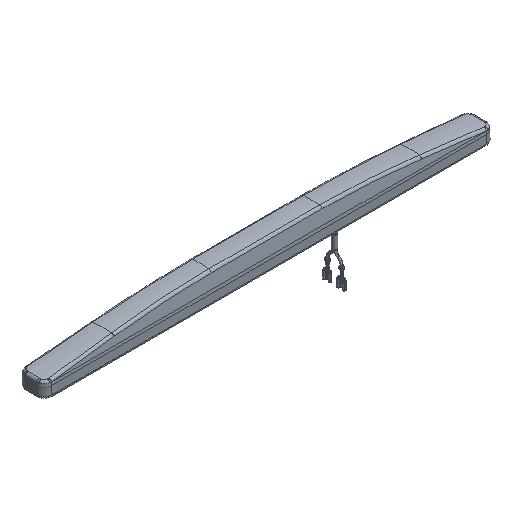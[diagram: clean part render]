
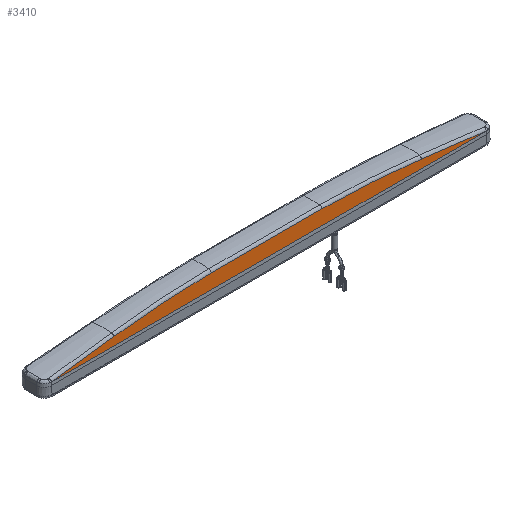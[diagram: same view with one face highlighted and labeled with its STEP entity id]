
A CAD part, isometric view. The second image highlights one B-rep face of the part: STEP entity #3410.
In plain terms, the highlighted planar face has unit normal (0, -0.985, 0.174).
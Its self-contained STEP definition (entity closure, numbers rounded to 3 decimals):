
#3390=AXIS2_PLACEMENT_3D('Plane Axis2P3D',#3387,#3388,#3389) ;
#208=CARTESIAN_POINT('Vertex',(-152.371,-11.516,1.938)) ;
#212=CARTESIAN_POINT('Control Point',(-54.833,-10.539,7.483)) ;
#213=CARTESIAN_POINT('Control Point',(-74.382,-10.562,7.35)) ;
#214=CARTESIAN_POINT('Control Point',(-93.927,-10.671,6.729)) ;
#215=CARTESIAN_POINT('Control Point',(-113.451,-10.867,5.62)) ;
#216=CARTESIAN_POINT('Control Point',(-132.939,-11.149,4.023)) ;
#217=CARTESIAN_POINT('Control Point',(-152.371,-11.516,1.938)) ;
#218=CARTESIAN_POINT('Vertex',(-54.833,-10.539,7.483)) ;
#379=CARTESIAN_POINT('Control Point',(54.833,-10.539,7.483)) ;
#380=CARTESIAN_POINT('Control Point',(32.9,-10.512,7.632)) ;
#381=CARTESIAN_POINT('Control Point',(10.967,-10.499,7.707)) ;
#382=CARTESIAN_POINT('Control Point',(-10.967,-10.499,7.707)) ;
#383=CARTESIAN_POINT('Control Point',(-32.9,-10.512,7.632)) ;
#384=CARTESIAN_POINT('Control Point',(-54.833,-10.539,7.483)) ;
#385=CARTESIAN_POINT('Vertex',(54.833,-10.539,7.483)) ;
#595=CARTESIAN_POINT('Control Point',(152.371,-11.516,1.938)) ;
#596=CARTESIAN_POINT('Control Point',(138.595,-11.256,3.417)) ;
#597=CARTESIAN_POINT('Control Point',(124.792,-11.038,4.649)) ;
#598=CARTESIAN_POINT('Control Point',(110.967,-10.864,5.637)) ;
#599=CARTESIAN_POINT('Control Point',(91.444,-10.679,6.684)) ;
#600=CARTESIAN_POINT('Control Point',(71.903,-10.581,7.243)) ;
#601=CARTESIAN_POINT('Control Point',(66.214,-10.559,7.364)) ;
#602=CARTESIAN_POINT('Control Point',(60.523,-10.545,7.444)) ;
#603=CARTESIAN_POINT('Control Point',(54.833,-10.539,7.483)) ;
#604=CARTESIAN_POINT('Vertex',(152.371,-11.516,1.938)) ;
#1415=CARTESIAN_POINT('Vertex',(-215.5,-12.73,-4.943)) ;
#1608=CARTESIAN_POINT('Vertex',(215.5,-12.73,-4.943)) ;
#1611=CARTESIAN_POINT('Line Origine',(0.,-12.73,-4.943)) ;
#1640=CARTESIAN_POINT('Line Origine',(-215.5,-11.071,4.462)) ;
#1644=CARTESIAN_POINT('Vertex',(-215.5,-12.712,-4.845)) ;
#1807=CARTESIAN_POINT('Line Origine',(215.5,-11.071,4.462)) ;
#1811=CARTESIAN_POINT('Vertex',(215.5,-12.712,-4.845)) ;
#3321=CARTESIAN_POINT('Control Point',(215.5,-12.712,-4.845)) ;
#3322=CARTESIAN_POINT('Control Point',(202.874,-12.473,-3.486)) ;
#3323=CARTESIAN_POINT('Control Point',(190.249,-12.233,-2.129)) ;
#3324=CARTESIAN_POINT('Control Point',(177.623,-11.994,-0.772)) ;
#3325=CARTESIAN_POINT('Control Point',(164.997,-11.755,0.584)) ;
#3326=CARTESIAN_POINT('Control Point',(152.371,-11.516,1.938)) ;
#3387=CARTESIAN_POINT('Axis2P3D Location',(215.5,-12.972,-6.32)) ;
#3393=CARTESIAN_POINT('Control Point',(-152.371,-11.516,1.938)) ;
#3394=CARTESIAN_POINT('Control Point',(-164.997,-11.755,0.584)) ;
#3395=CARTESIAN_POINT('Control Point',(-177.623,-11.994,-0.772)) ;
#3396=CARTESIAN_POINT('Control Point',(-190.249,-12.233,-2.129)) ;
#3397=CARTESIAN_POINT('Control Point',(-202.874,-12.473,-3.486)) ;
#3398=CARTESIAN_POINT('Control Point',(-215.5,-12.712,-4.845)) ;
#1612=DIRECTION('Vector Direction',(-1.,0.,0.)) ;
#1641=DIRECTION('Vector Direction',(0.,-0.174,-0.985)) ;
#1808=DIRECTION('Vector Direction',(0.,-0.174,-0.985)) ;
#3388=DIRECTION('Axis2P3D Direction',(0.,-0.985,0.174)) ;
#3389=DIRECTION('Axis2P3D XDirection',(0.,0.174,0.985)) ;
#1613=VECTOR('Line Direction',#1612,1.) ;
#1642=VECTOR('Line Direction',#1641,1.) ;
#1809=VECTOR('Line Direction',#1808,1.) ;
#3401=ORIENTED_EDGE('',*,*,#3327,.F.) ;
#3402=ORIENTED_EDGE('',*,*,#606,.F.) ;
#3403=ORIENTED_EDGE('',*,*,#387,.F.) ;
#3404=ORIENTED_EDGE('',*,*,#220,.F.) ;
#3405=ORIENTED_EDGE('',*,*,#3399,.F.) ;
#3406=ORIENTED_EDGE('',*,*,#1646,.F.) ;
#3407=ORIENTED_EDGE('',*,*,#1615,.F.) ;
#3408=ORIENTED_EDGE('',*,*,#1813,.T.) ;
#3410=ADVANCED_FACE('Body.47',(#3409),#3391,.T.) ;
#211=B_SPLINE_CURVE_WITH_KNOTS('',5,(#212,#213,#214,#215,#216,#217),.UNSPECIFIED.,.F.,.U.,(6,6),(245.077,378.084),.UNSPECIFIED.) ;
#378=B_SPLINE_CURVE_WITH_KNOTS('',5,(#379,#380,#381,#382,#383,#384),.UNSPECIFIED.,.F.,.U.,(6,6),(347.595,501.964),.UNSPECIFIED.) ;
#594=B_SPLINE_CURVE_WITH_KNOTS('',5,(#595,#596,#597,#598,#599,#600,#601,#602,#603),.UNSPECIFIED.,.F.,.U.,(6,3,6),(93.958,188.248,226.965),.UNSPECIFIED.) ;
#3320=B_SPLINE_CURVE_WITH_KNOTS('',5,(#3321,#3322,#3323,#3324,#3325,#3326),.UNSPECIFIED.,.F.,.U.,(6,6),(39.865,129.673),.UNSPECIFIED.) ;
#3392=B_SPLINE_CURVE_WITH_KNOTS('',5,(#3393,#3394,#3395,#3396,#3397,#3398),.UNSPECIFIED.,.F.,.U.,(6,6),(141.293,231.101),.UNSPECIFIED.) ;
#220=EDGE_CURVE('',#209,#219,#211,.F.) ;
#387=EDGE_CURVE('',#219,#386,#378,.F.) ;
#606=EDGE_CURVE('',#386,#605,#594,.F.) ;
#1615=EDGE_CURVE('',#1609,#1416,#1614,.T.) ;
#1646=EDGE_CURVE('',#1416,#1645,#1643,.F.) ;
#1813=EDGE_CURVE('',#1609,#1812,#1810,.F.) ;
#3327=EDGE_CURVE('',#605,#1812,#3320,.F.) ;
#3399=EDGE_CURVE('',#1645,#209,#3392,.F.) ;
#3400=EDGE_LOOP('',(#3401,#3402,#3403,#3404,#3405,#3406,#3407,#3408)) ;
#3409=FACE_OUTER_BOUND('',#3400,.T.) ;
#1614=LINE('Line',#1611,#1613) ;
#1643=LINE('Line',#1640,#1642) ;
#1810=LINE('Line',#1807,#1809) ;
#3391=PLANE('',#3390) ;
#209=VERTEX_POINT('',#208) ;
#219=VERTEX_POINT('',#218) ;
#386=VERTEX_POINT('',#385) ;
#605=VERTEX_POINT('',#604) ;
#1416=VERTEX_POINT('',#1415) ;
#1609=VERTEX_POINT('',#1608) ;
#1645=VERTEX_POINT('',#1644) ;
#1812=VERTEX_POINT('',#1811) ;
